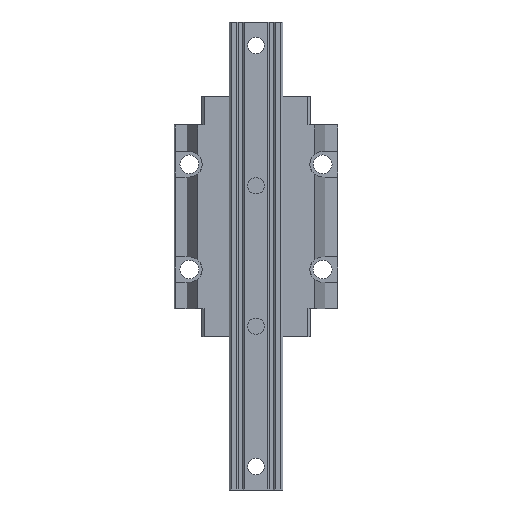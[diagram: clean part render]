
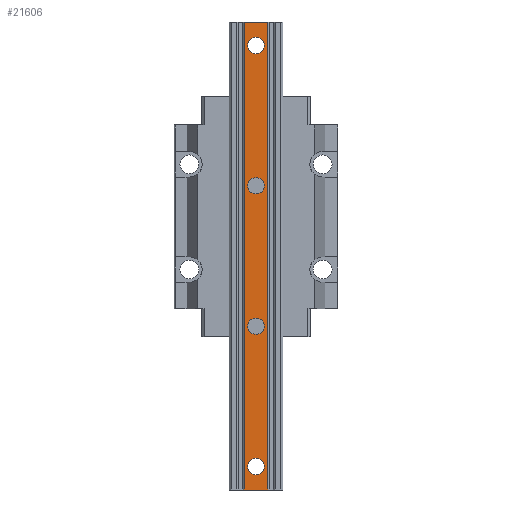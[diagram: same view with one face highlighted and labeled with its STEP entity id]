
A CAD part, front view. The second image highlights one B-rep face of the part: STEP entity #21606.
In plain terms, the highlighted planar face has unit normal (0, -1, 0).
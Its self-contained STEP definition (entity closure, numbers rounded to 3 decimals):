
#353 = LINE ( 'NONE', #28238, #9679 ) ;
#1072 = ORIENTED_EDGE ( 'NONE', *, *, #7404, .T. ) ;
#1311 = CARTESIAN_POINT ( 'NONE',  ( -11.5, 0., -231.828 ) ) ;
#1728 = VERTEX_POINT ( 'NONE', #31955 ) ;
#1835 = AXIS2_PLACEMENT_3D ( 'NONE', #25742, #17277, #11895 ) ;
#1849 = CARTESIAN_POINT ( 'NONE',  ( -4.929, 0., 0. ) ) ;
#1966 = EDGE_CURVE ( 'NONE', #18388, #1728, #33182, .T. ) ;
#2264 = ORIENTED_EDGE ( 'NONE', *, *, #34806, .T. ) ;
#2453 = CARTESIAN_POINT ( 'NONE',  ( 0., 0., -190. ) ) ;
#2632 = DIRECTION ( 'NONE',  ( 0., 0., 1. ) ) ;
#3189 = EDGE_LOOP ( 'NONE', ( #21456, #2264 ) ) ;
#3442 = CARTESIAN_POINT ( 'NONE',  ( 0., 0., -13.5 ) ) ;
#4067 = CARTESIAN_POINT ( 'NONE',  ( 0., 0., -73.5 ) ) ;
#4148 = VERTEX_POINT ( 'NONE', #26579 ) ;
#4291 = DIRECTION ( 'NONE',  ( 0., 1., 0. ) ) ;
#4551 = AXIS2_PLACEMENT_3D ( 'NONE', #1311, #7169, #29390 ) ;
#4650 = EDGE_CURVE ( 'NONE', #24346, #16410, #10236, .T. ) ;
#5421 = CARTESIAN_POINT ( 'NONE',  ( 0., 0., -70. ) ) ;
#5560 = LINE ( 'NONE', #19161, #15203 ) ;
#5919 = ORIENTED_EDGE ( 'NONE', *, *, #21113, .T. ) ;
#6010 = CARTESIAN_POINT ( 'NONE',  ( 4.929, 0., 0. ) ) ;
#6081 = FACE_BOUND ( 'NONE', #3189, .T. ) ;
#6772 = EDGE_CURVE ( 'NONE', #16410, #24346, #19890, .T. ) ;
#7043 = EDGE_LOOP ( 'NONE', ( #5919, #29605 ) ) ;
#7155 = CARTESIAN_POINT ( 'NONE',  ( -4.929, 0., -200. ) ) ;
#7169 = DIRECTION ( 'NONE',  ( 0., -1., 0. ) ) ;
#7404 = EDGE_CURVE ( 'NONE', #25340, #10513, #12398, .T. ) ;
#7438 = AXIS2_PLACEMENT_3D ( 'NONE', #18603, #4291, #29810 ) ;
#8147 = VERTEX_POINT ( 'NONE', #15440 ) ;
#8148 = DIRECTION ( 'NONE',  ( 0., 1., 0. ) ) ;
#8666 = FACE_OUTER_BOUND ( 'NONE', #31130, .T. ) ;
#8950 = DIRECTION ( 'NONE',  ( 0., 0., 1. ) ) ;
#9121 = AXIS2_PLACEMENT_3D ( 'NONE', #2453, #8148, #2632 ) ;
#9206 = CARTESIAN_POINT ( 'NONE',  ( 0., 0., -186.5 ) ) ;
#9544 = CARTESIAN_POINT ( 'NONE',  ( 11.5, 0., 0. ) ) ;
#9679 = VECTOR ( 'NONE', #13893, 1000. ) ;
#10236 = CIRCLE ( 'NONE', #30621, 3.5 ) ;
#10513 = VERTEX_POINT ( 'NONE', #6010 ) ;
#10632 = CARTESIAN_POINT ( 'NONE',  ( 0., 0., -70. ) ) ;
#10878 = CIRCLE ( 'NONE', #16733, 3.5 ) ;
#11691 = DIRECTION ( 'NONE',  ( 0., 1., 0. ) ) ;
#11895 = DIRECTION ( 'NONE',  ( 0., 0., 1. ) ) ;
#12140 = CIRCLE ( 'NONE', #30791, 3.5 ) ;
#12398 = LINE ( 'NONE', #29327, #18879 ) ;
#12693 = DIRECTION ( 'NONE',  ( 0., 0., 1. ) ) ;
#13190 = LINE ( 'NONE', #9544, #25978 ) ;
#13409 = ORIENTED_EDGE ( 'NONE', *, *, #1966, .T. ) ;
#13453 = CARTESIAN_POINT ( 'NONE',  ( 0., 0., -133.5 ) ) ;
#13893 = DIRECTION ( 'NONE',  ( 1., 0., 0. ) ) ;
#15123 = EDGE_LOOP ( 'NONE', ( #20368, #35263 ) ) ;
#15203 = VECTOR ( 'NONE', #22001, 1000. ) ;
#15440 = CARTESIAN_POINT ( 'NONE',  ( 0., 0., -193.5 ) ) ;
#16410 = VERTEX_POINT ( 'NONE', #4067 ) ;
#16635 = ORIENTED_EDGE ( 'NONE', *, *, #20499, .T. ) ;
#16733 = AXIS2_PLACEMENT_3D ( 'NONE', #29622, #32577, #12693 ) ;
#17132 = ORIENTED_EDGE ( 'NONE', *, *, #30513, .T. ) ;
#17277 = DIRECTION ( 'NONE',  ( 0., 1., 0. ) ) ;
#17285 = FACE_BOUND ( 'NONE', #7043, .T. ) ;
#17905 = DIRECTION ( 'NONE',  ( 0., 1., 0. ) ) ;
#18213 = CIRCLE ( 'NONE', #1835, 3.5 ) ;
#18388 = VERTEX_POINT ( 'NONE', #13453 ) ;
#18411 = EDGE_CURVE ( 'NONE', #25424, #31338, #5560, .T. ) ;
#18603 = CARTESIAN_POINT ( 'NONE',  ( 0., 0., -10. ) ) ;
#18879 = VECTOR ( 'NONE', #23481, 1000. ) ;
#19093 = DIRECTION ( 'NONE',  ( 0., 1., 0. ) ) ;
#19161 = CARTESIAN_POINT ( 'NONE',  ( -4.929, 0., -231.828 ) ) ;
#19845 = PLANE ( 'NONE',  #4551 ) ;
#19882 = EDGE_CURVE ( 'NONE', #31338, #25340, #353, .T. ) ;
#19890 = CIRCLE ( 'NONE', #22750, 3.5 ) ;
#20211 = EDGE_CURVE ( 'NONE', #4148, #27831, #10878, .T. ) ;
#20368 = ORIENTED_EDGE ( 'NONE', *, *, #4650, .T. ) ;
#20442 = EDGE_LOOP ( 'NONE', ( #17132, #13409 ) ) ;
#20499 = EDGE_CURVE ( 'NONE', #10513, #25424, #13190, .T. ) ;
#21113 = EDGE_CURVE ( 'NONE', #24234, #8147, #25976, .T. ) ;
#21456 = ORIENTED_EDGE ( 'NONE', *, *, #20211, .T. ) ;
#21606 = ADVANCED_FACE ( 'NONE', ( #6081, #22527, #33646, #17285, #8666 ), #19845, .T. ) ;
#21763 = DIRECTION ( 'NONE',  ( 0., 0., 1. ) ) ;
#22001 = DIRECTION ( 'NONE',  ( 0., 0., -1. ) ) ;
#22527 = FACE_BOUND ( 'NONE', #15123, .T. ) ;
#22750 = AXIS2_PLACEMENT_3D ( 'NONE', #5421, #24733, #27685 ) ;
#23481 = DIRECTION ( 'NONE',  ( 0., 0., 1. ) ) ;
#24234 = VERTEX_POINT ( 'NONE', #9206 ) ;
#24346 = VERTEX_POINT ( 'NONE', #32553 ) ;
#24733 = DIRECTION ( 'NONE',  ( 0., 1., 0. ) ) ;
#25137 = ORIENTED_EDGE ( 'NONE', *, *, #19882, .T. ) ;
#25340 = VERTEX_POINT ( 'NONE', #28836 ) ;
#25424 = VERTEX_POINT ( 'NONE', #1849 ) ;
#25742 = CARTESIAN_POINT ( 'NONE',  ( 0., 0., -130. ) ) ;
#25831 = EDGE_CURVE ( 'NONE', #8147, #24234, #12140, .T. ) ;
#25976 = CIRCLE ( 'NONE', #9121, 3.5 ) ;
#25978 = VECTOR ( 'NONE', #29029, 1000. ) ;
#26236 = CARTESIAN_POINT ( 'NONE',  ( 0., 0., -130. ) ) ;
#26579 = CARTESIAN_POINT ( 'NONE',  ( 0., 0., -6.5 ) ) ;
#27234 = CIRCLE ( 'NONE', #7438, 3.5 ) ;
#27685 = DIRECTION ( 'NONE',  ( 0., 0., 1. ) ) ;
#27831 = VERTEX_POINT ( 'NONE', #3442 ) ;
#28238 = CARTESIAN_POINT ( 'NONE',  ( 0., 0., -200. ) ) ;
#28836 = CARTESIAN_POINT ( 'NONE',  ( 4.929, 0., -200. ) ) ;
#28887 = ORIENTED_EDGE ( 'NONE', *, *, #18411, .T. ) ;
#28938 = DIRECTION ( 'NONE',  ( 0., 0., 1. ) ) ;
#29029 = DIRECTION ( 'NONE',  ( -1., 0., 0. ) ) ;
#29327 = CARTESIAN_POINT ( 'NONE',  ( 4.929, 0., -231.828 ) ) ;
#29390 = DIRECTION ( 'NONE',  ( 0., 0., -1. ) ) ;
#29605 = ORIENTED_EDGE ( 'NONE', *, *, #25831, .T. ) ;
#29622 = CARTESIAN_POINT ( 'NONE',  ( 0., 0., -10. ) ) ;
#29810 = DIRECTION ( 'NONE',  ( 0., 0., 1. ) ) ;
#30253 = AXIS2_PLACEMENT_3D ( 'NONE', #26236, #11691, #8950 ) ;
#30513 = EDGE_CURVE ( 'NONE', #1728, #18388, #18213, .T. ) ;
#30621 = AXIS2_PLACEMENT_3D ( 'NONE', #10632, #19093, #21763 ) ;
#30791 = AXIS2_PLACEMENT_3D ( 'NONE', #34426, #17905, #28938 ) ;
#31130 = EDGE_LOOP ( 'NONE', ( #16635, #28887, #25137, #1072 ) ) ;
#31338 = VERTEX_POINT ( 'NONE', #7155 ) ;
#31955 = CARTESIAN_POINT ( 'NONE',  ( 0., 0., -126.5 ) ) ;
#32553 = CARTESIAN_POINT ( 'NONE',  ( 0., 0., -66.5 ) ) ;
#32577 = DIRECTION ( 'NONE',  ( 0., 1., 0. ) ) ;
#33182 = CIRCLE ( 'NONE', #30253, 3.5 ) ;
#33646 = FACE_BOUND ( 'NONE', #20442, .T. ) ;
#34426 = CARTESIAN_POINT ( 'NONE',  ( 0., 0., -190. ) ) ;
#34806 = EDGE_CURVE ( 'NONE', #27831, #4148, #27234, .T. ) ;
#35263 = ORIENTED_EDGE ( 'NONE', *, *, #6772, .T. ) ;
